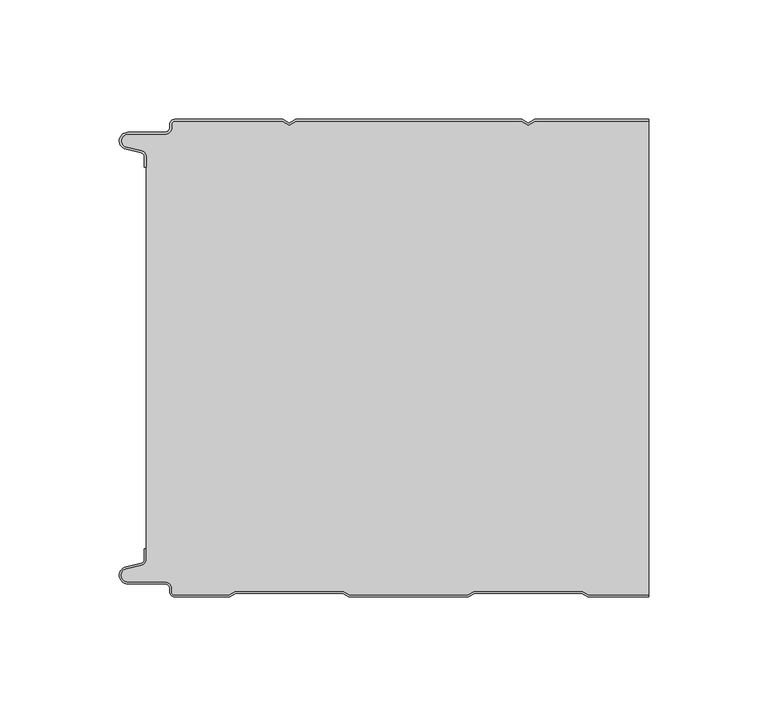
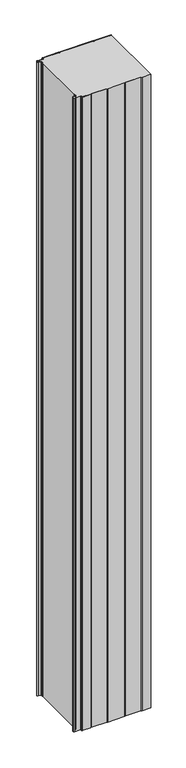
"""IFC4 building model written with IfcOpenShell, lengths in millimetres: plate geometry, PMH_Curtain-PaneL-Standard : ACH_PMH_Stone-wool-Panel_200M."""

import ifcopenshell
import ifcopenshell.guid

model = None  # the IFC model being written
_history = None  # IfcOwnerHistory: only IFC2X3 demands one
_inside = {}  # id of a spatial element -> (the spatial element, [elements in it])
_under = {}  # id of a project, library or spatial element -> (it, [spatial elements below it])
_declared = {}  # id of a project -> (the project, [libraries it declares])
_typed = {}  # id of a type object -> (the type object, [elements of that type])
_made_of = {}  # id of a material, layer set ... -> (it, [elements and type objects made of it])


def new_model(schema):
    """Start an empty IFC model of exactly this schema.

    Asked for "IFC4X3", IfcOpenShell would pick the latest addendum, in which some entities
    have other attributes; the version numbers below select the first issue.
    IFC2X3 requires an IfcOwnerHistory on every rooted entity: one is made here for all.
    """
    global model, _history
    if schema == "IFC4X3":
        model = ifcopenshell.file(schema_version=(4, 3, 0, 0))
    else:
        model = ifcopenshell.file(schema=schema)
    _inside.clear()
    _under.clear()
    _declared.clear()
    _typed.clear()
    _made_of.clear()
    _history = None
    if model.schema == "IFC2X3":
        org = make("IfcOrganization", Name="unknown")
        user = make(
            "IfcPersonAndOrganization",
            ThePerson=make("IfcPerson", FamilyName="unknown"),
            TheOrganization=org,
        )
        app = make(
            "IfcApplication",
            ApplicationDeveloper=org,
            Version="unknown",
            ApplicationFullName="unknown",
            ApplicationIdentifier="unknown",
        )
        _history = make(
            "IfcOwnerHistory",
            OwningUser=user,
            OwningApplication=app,
            ChangeAction="ADDED",
            CreationDate=0,
        )
    return model


def make(cls, **values):
    """One entity of the class cls with the attributes given. An attribute that is None is left unset."""
    return model.create_entity(
        cls, **{name: value for name, value in values.items() if value is not None}
    )


def rooted(cls, **values):
    """An entity with a GlobalId (a new one), such as an element, a storey or a relation."""
    return make(cls, GlobalId=ifcopenshell.guid.new(), OwnerHistory=_history, **values)


def si_unit(unit_type, name, prefix=None):
    """IfcSIUnit, for example si_unit("LENGTHUNIT", "METRE", prefix="MILLI")."""
    return make("IfcSIUnit", UnitType=unit_type, Prefix=prefix, Name=name)


def assignment(units):
    """IfcUnitAssignment: the units of a project."""
    return None if units is None else make("IfcUnitAssignment", Units=units)


def point(xyz):
    """IfcCartesianPoint."""
    return None if xyz is None else make("IfcCartesianPoint", Coordinates=xyz)


def direction(xyz):
    """IfcDirection."""
    return None if xyz is None else make("IfcDirection", DirectionRatios=xyz)


def frame(location, z_axis=None, x_axis=None):
    """IfcAxis2Placement3D, a coordinate frame: its origin and axes. An axis left out is left unset."""
    return make(
        "IfcAxis2Placement3D",
        Location=point(location),
        Axis=direction(z_axis),
        RefDirection=direction(x_axis),
    )


def frame_2d(location, x_axis=None):
    """IfcAxis2Placement2D, a coordinate frame in the plane: its origin and x axis."""
    return make(
        "IfcAxis2Placement2D", Location=point(location), RefDirection=direction(x_axis)
    )


def origin():
    """The frame at (0, 0, 0) with its axes left unset."""
    return frame((0.0, 0.0, 0.0))


def origin_with_axes():
    """The frame at (0, 0, 0) with the z axis (0, 0, 1) and the x axis (1, 0, 0) written out."""
    return frame((0.0, 0.0, 0.0), z_axis=(0.0, 0.0, 1.0), x_axis=(1.0, 0.0, 0.0))


def place(relative_to, where):
    """IfcLocalPlacement: puts the frame where relative to a parent placement (None: the world)."""
    return make(
        "IfcLocalPlacement", PlacementRelTo=relative_to, RelativePlacement=where
    )


def context(
    kind, dimensions, precision=None, world=None, true_north=None, identifier=None
):
    """IfcGeometricRepresentationContext, for example the 3D "Model" context."""
    return make(
        "IfcGeometricRepresentationContext",
        ContextIdentifier=identifier,
        ContextType=kind,
        CoordinateSpaceDimension=dimensions,
        Precision=precision,
        WorldCoordinateSystem=world,
        TrueNorth=true_north,
    )


def project(units=None, contexts=None):
    """IfcProject with its units and contexts."""
    return rooted(
        "IfcProject",
        Name="project",
        RepresentationContexts=contexts,
        UnitsInContext=assignment(units),
    )


def spatial(cls, under=None, at=None, **own):
    """A site, building, storey or space (cls), placed at a placement, below another one or the project."""
    s = rooted(cls, ObjectPlacement=at, **own)
    if under is not None:
        _under.setdefault(under.id(), (under, []))[1].append(s)
    return s


def polyline(points):
    """IfcPolyline through the points."""
    return make("IfcPolyline", Points=[point(p) for p in points])


def circle_curve(where, radius):
    """IfcCircle in the frame where."""
    return make("IfcCircle", Position=where, Radius=radius)


def trimmed(basis, trim1, trim2, sense, master):
    """IfcTrimmedCurve: the piece of a basis curve between two trims."""
    return make(
        "IfcTrimmedCurve",
        BasisCurve=basis,
        Trim1=trim1,
        Trim2=trim2,
        SenseAgreement=sense,
        MasterRepresentation=master,
    )


def segment(curve, same_sense, transition):
    """IfcCompositeCurveSegment."""
    return make(
        "IfcCompositeCurveSegment",
        Transition=transition,
        SameSense=same_sense,
        ParentCurve=curve,
    )


def composite_curve(segments, self_intersect=None):
    """IfcCompositeCurve: segments joined end to end."""
    return make("IfcCompositeCurve", Segments=segments, SelfIntersect=self_intersect)


def outline(outer, holes=None, kind="AREA"):
    """IfcArbitraryClosedProfileDef: a profile drawn as a closed curve; with holes, ...WithVoids."""
    if holes is None:
        return make("IfcArbitraryClosedProfileDef", ProfileType=kind, OuterCurve=outer)
    return make(
        "IfcArbitraryProfileDefWithVoids",
        ProfileType=kind,
        OuterCurve=outer,
        InnerCurves=holes,
    )


def extrude(swept, where, along, depth):
    """IfcExtrudedAreaSolid: the profile swept, set in the frame where, extruded along a direction by depth."""
    return make(
        "IfcExtrudedAreaSolid",
        SweptArea=swept,
        Position=where,
        ExtrudedDirection=direction(along),
        Depth=depth,
    )


def shape(context_of_items, identifier, shape_type, items):
    """IfcShapeRepresentation: the items that make up one representation, for example the "Body"."""
    return make(
        "IfcShapeRepresentation",
        ContextOfItems=context_of_items,
        RepresentationIdentifier=identifier,
        RepresentationType=shape_type,
        Items=items,
    )


def source(mapping_origin, context_of_items, identifier, shape_type, items):
    """IfcRepresentationMap: a shape defined once, which mapped items show again and again."""
    return make(
        "IfcRepresentationMap",
        MappingOrigin=mapping_origin,
        MappedRepresentation=shape(context_of_items, identifier, shape_type, items),
    )


def transform(
    local_origin,
    x_axis=None,
    y_axis=None,
    z_axis=None,
    scale=None,
    scale2=None,
    scale3=None,
    uniform=True,
):
    """IfcCartesianTransformationOperator3D, or its non-uniform kind. x_axis, y_axis, z_axis: its Axis1, 2, 3."""
    if uniform:
        return make(
            "IfcCartesianTransformationOperator3D",
            Axis1=direction(x_axis),
            Axis2=direction(y_axis),
            LocalOrigin=point(local_origin),
            Scale=scale,
            Axis3=direction(z_axis),
        )
    return make(
        "IfcCartesianTransformationOperator3DnonUniform",
        Axis1=direction(x_axis),
        Axis2=direction(y_axis),
        LocalOrigin=point(local_origin),
        Scale=scale,
        Axis3=direction(z_axis),
        Scale2=scale2,
        Scale3=scale3,
    )


def mapped(mapping_source, mapping_target):
    """IfcMappedItem: shows the shape of a source again, moved by a transform."""
    return make(
        "IfcMappedItem", MappingSource=mapping_source, MappingTarget=mapping_target
    )


def made_of(thing, what):
    """Note that an element or type object is made of a material, layer set ...; save() writes the relation."""
    if what is not None:
        _made_of.setdefault(what.id(), (what, []))[1].append(thing)
    return thing


def element(
    cls,
    number,
    at=None,
    inside=None,
    cuts=None,
    type_object=None,
    material=None,
    context=None,
    identifier="Body",
    shape_type=None,
    held_by="IfcProductDefinitionShape",
    body=None,
    shapes=None,
    **own,
):
    """One element of the class cls, such as IfcWall. Its Tag is "e" and its number.

    at: its placement. inside: the storey or other place that contains it. cuts: it is an
    opening in that element (IfcRelVoidsElement). A single representation is given by context,
    identifier, shape_type and body (its items); several are given by shapes. held_by: the class
    of the entity that holds the representations. save() writes the other relations.
    """
    e = rooted(cls, Tag="e%d" % number, ObjectPlacement=at, **own)
    if body is not None:
        shapes = [shape(context, identifier, shape_type, body)]
    if shapes is not None:
        e.Representation = make(held_by, Representations=shapes)
    if inside is not None:
        _inside.setdefault(inside.id(), (inside, []))[1].append(e)
    if cuts is not None:
        rooted(
            "IfcRelVoidsElement", RelatingBuildingElement=cuts, RelatedOpeningElement=e
        )
    if type_object is not None:
        _typed.setdefault(type_object.id(), (type_object, []))[1].append(e)
    return made_of(e, material)


def aggregate(whole, parts):
    """IfcRelAggregates: a whole, such as a stair, and the parts it consists of."""
    return rooted("IfcRelAggregates", RelatingObject=whole, RelatedObjects=parts)


def save(model, path):
    """Write the relations noted so far, then the file.

    IfcRelAggregates (storeys below a building ...), IfcRelContainedInSpatialStructure (elements
    in a storey), IfcRelDefinesByType, IfcRelAssociatesMaterial and IfcRelDeclares: one each for
    every whole, place, type object, material and project.
    """
    for whole, parts in _under.values():
        aggregate(whole, parts)
    for where, things in _inside.values():
        rooted(
            "IfcRelContainedInSpatialStructure",
            RelatedElements=things,
            RelatingStructure=where,
        )
    for kind, things in _typed.values():
        rooted("IfcRelDefinesByType", RelatedObjects=things, RelatingType=kind)
    for what, things in _made_of.values():
        rooted("IfcRelAssociatesMaterial", RelatedObjects=things, RelatingMaterial=what)
    for by, libraries in _declared.values():
        rooted("IfcRelDeclares", RelatingContext=by, RelatedDefinitions=libraries)
    model.write(path)


def plate_208f2f02(model_context):
    return source(origin(), model_context, "Body", "SweptSolid", [
        extrude(outline(composite_curve([segment(trimmed(circle_curve(frame_2d((-102.0119739, -15.878557)), 2.0), [point((-100.0119739, -15.878557))], [point((-101.5620718, -13.9298169))], True, "CARTESIAN"), True, "CONTINUOUS"), segment(polyline([(-101.5620718, -13.9298169), (-107.7217978, -12.507732)]), True, "CONTINUOUS"), segment(trimmed(circle_curve(frame_2d((-106.9119739, -9.0)), 3.6), [point((-107.7217978, -12.507732))], [point((-106.9119739, -5.4))], False, "CARTESIAN"), True, "CONTINUOUS"), segment(polyline([(-106.9119739, -5.4), (-91.4119739, -5.4)]), True, "CONTINUOUS"), segment(trimmed(circle_curve(frame_2d((-91.4119739, -3.4)), 2.0), [point((-91.4119739, -5.4))], [point((-89.4119739, -3.4))], True, "CARTESIAN"), True, "CONTINUOUS"), segment(polyline([(-89.4119739, -3.4), (-89.4119739, -2.0)]), True, "CONTINUOUS"), segment(trimmed(circle_curve(frame_2d((-87.4119739, -2.0)), 2.0), [point((-89.4119739, -2.0))], [point((-87.4119739, 0.0))], False, "CARTESIAN"), True, "CONTINUOUS"), segment(polyline([(-87.4119739, 0.0), (-42.1119734, 0.0), (-39.4119739, -1.5588455), (-36.7119745, 0.0), (57.8880266, 0.0), (60.5880261, -1.5588455), (63.2880255, 0.0), (111.0119739, 0.0), (111.0119739, -0.8), (63.5023849, -0.8), (60.5880261, -2.482606), (57.6736672, -0.8), (-36.4976151, -0.8), (-39.4119739, -2.482606), (-42.3263328, -0.8), (-87.4119739, -0.8)]), True, "CONTINUOUS"), segment(trimmed(circle_curve(frame_2d((-87.4119739, -2.0)), 1.2), [point((-87.4119739, -0.8))], [point((-88.6119739, -2.0))], True, "CARTESIAN"), True, "CONTINUOUS"), segment(polyline([(-88.6119739, -2.0), (-88.6119739, -3.4)]), True, "CONTINUOUS"), segment(trimmed(circle_curve(frame_2d((-91.4119739, -3.4)), 2.8), [point((-88.6119739, -3.4))], [point((-91.4119739, -6.2))], False, "CARTESIAN"), True, "CONTINUOUS"), segment(polyline([(-91.4119739, -6.2), (-106.9119739, -6.2)]), True, "CONTINUOUS"), segment(trimmed(circle_curve(frame_2d((-106.9119739, -9.0)), 2.8), [point((-106.9119739, -6.2))], [point((-107.541837, -11.7282362))], True, "CARTESIAN"), True, "CONTINUOUS"), segment(polyline([(-107.541837, -11.7282362), (-101.3821109, -13.150321)]), True, "CONTINUOUS"), segment(trimmed(circle_curve(frame_2d((-102.0119739, -15.878557)), 2.8), [point((-101.3821109, -13.150321))], [point((-99.2119739, -15.878557))], False, "CARTESIAN"), True, "CONTINUOUS"), segment(polyline([(-99.2119739, -15.878557), (-99.2119739, -20.0), (-100.0119739, -20.0), (-100.0119739, -15.878557)]), True, "CONTINUOUS")], self_intersect=False)), origin_with_axes(), (0.0, 0.0, 1.0), 1945.7507136),
        extrude(outline(composite_curve([segment(polyline([(-99.2119739, -184.121443), (-99.2119739, -15.8785573)]), True, "CONTINUOUS"), segment(trimmed(circle_curve(frame_2d((-102.0119739, -15.8785573)), 2.8), [point((-99.2119739, -15.8785573))], [point((-101.3821109, -13.1503212))], True, "CARTESIAN"), True, "CONTINUOUS"), segment(polyline([(-101.3821109, -13.1503212), (-107.541837, -11.7282362)]), True, "CONTINUOUS"), segment(trimmed(circle_curve(frame_2d((-106.911974, -9.0)), 2.8), [point((-107.541837, -11.7282362))], [point((-106.911974, -6.2))], False, "CARTESIAN"), True, "CONTINUOUS"), segment(polyline([(-106.911974, -6.2), (-91.411974, -6.2)]), True, "CONTINUOUS"), segment(trimmed(circle_curve(frame_2d((-91.411974, -3.4)), 2.8), [point((-91.411974, -6.2))], [point((-88.611974, -3.4))], True, "CARTESIAN"), True, "CONTINUOUS"), segment(polyline([(-88.611974, -3.4), (-88.611974, -2.0)]), True, "CONTINUOUS"), segment(trimmed(circle_curve(frame_2d((-87.411974, -2.0)), 1.2), [point((-88.611974, -2.0))], [point((-87.411974, -0.8))], False, "CARTESIAN"), True, "CONTINUOUS"), segment(polyline([(-87.411974, -0.8), (-42.3263329, -0.8), (-39.411974, -2.482606), (-36.4976152, -0.8), (57.6736671, -0.8), (60.588026, -2.482606), (63.5023848, -0.8), (111.0119739, -0.8), (111.0119739, -199.2), (85.7985382, -199.2), (83.2004606, -197.7), (37.9717445, -197.7), (35.3736669, -199.2), (-14.2014618, -199.2), (-16.7995394, -197.7), (-62.0282555, -197.7), (-64.6263331, -199.2), (-87.4119739, -199.2)]), True, "CONTINUOUS"), segment(trimmed(circle_curve(frame_2d((-87.4119739, -198.0)), 1.2), [point((-87.4119739, -199.2))], [point((-88.6119739, -198.0))], False, "CARTESIAN"), True, "CONTINUOUS"), segment(polyline([(-88.6119739, -198.0), (-88.6119739, -196.5999998)]), True, "CONTINUOUS"), segment(trimmed(circle_curve(frame_2d((-91.4119739, -196.5999998)), 2.8), [point((-88.6119739, -196.5999998))], [point((-91.4119739, -193.7999998))], True, "CARTESIAN"), True, "CONTINUOUS"), segment(polyline([(-91.4119739, -193.7999998), (-106.9119739, -193.7999998)]), True, "CONTINUOUS"), segment(trimmed(circle_curve(frame_2d((-106.9119739, -191.0)), 2.7999998), [point((-106.9119739, -193.7999998))], [point((-107.5418369, -188.271764))], False, "CARTESIAN"), True, "CONTINUOUS"), segment(polyline([(-107.5418369, -188.271764), (-101.3821109, -186.8496792)]), True, "CONTINUOUS"), segment(trimmed(circle_curve(frame_2d((-102.0119739, -184.121443)), 2.8), [point((-101.3821109, -186.8496792))], [point((-99.2119739, -184.121443))], True, "CARTESIAN"), True, "CONTINUOUS")], self_intersect=False)), origin_with_axes(), (0.0, 0.0, 1.0), 1945.7507136),
        extrude(outline(composite_curve([segment(trimmed(circle_curve(frame_2d((-87.4119739, -198.0)), 2.0), [point((-87.4119739, -200.0))], [point((-89.4119739, -198.0))], False, "CARTESIAN"), True, "CONTINUOUS"), segment(polyline([(-89.4119739, -198.0), (-89.4119739, -196.6)]), True, "CONTINUOUS"), segment(trimmed(circle_curve(frame_2d((-91.4119739, -196.6)), 2.0), [point((-89.4119739, -196.6))], [point((-91.4119739, -194.6))], True, "CARTESIAN"), True, "CONTINUOUS"), segment(polyline([(-91.4119739, -194.6), (-106.9119739, -194.6)]), True, "CONTINUOUS"), segment(trimmed(circle_curve(frame_2d((-106.9119739, -191.0)), 3.6), [point((-106.9119739, -194.6))], [point((-107.7217979, -187.4922678))], False, "CARTESIAN"), True, "CONTINUOUS"), segment(polyline([(-107.7217979, -187.4922678), (-101.5620718, -186.070183)]), True, "CONTINUOUS"), segment(trimmed(circle_curve(frame_2d((-102.0119739, -184.121443)), 2.0), [point((-101.5620718, -186.070183))], [point((-100.0119739, -184.121443))], True, "CARTESIAN"), True, "CONTINUOUS"), segment(polyline([(-100.0119739, -184.121443), (-100.0119739, -180.0), (-99.2119739, -180.0), (-99.2119739, -184.121443)]), True, "CONTINUOUS"), segment(trimmed(circle_curve(frame_2d((-102.0119739, -184.121443)), 2.8), [point((-99.2119739, -184.121443))], [point((-101.3821109, -186.8496792))], False, "CARTESIAN"), True, "CONTINUOUS"), segment(polyline([(-101.3821109, -186.8496792), (-107.5418369, -188.271764)]), True, "CONTINUOUS"), segment(trimmed(circle_curve(frame_2d((-106.9119739, -191.0)), 2.8), [point((-107.5418369, -188.271764))], [point((-106.9119739, -193.8))], True, "CARTESIAN"), True, "CONTINUOUS"), segment(polyline([(-106.9119739, -193.8), (-91.4119739, -193.8)]), True, "CONTINUOUS"), segment(trimmed(circle_curve(frame_2d((-91.4119739, -196.6)), 2.8), [point((-91.4119739, -193.8))], [point((-88.6119739, -196.6))], False, "CARTESIAN"), True, "CONTINUOUS"), segment(polyline([(-88.6119739, -196.6), (-88.6119739, -198.0)]), True, "CONTINUOUS"), segment(trimmed(circle_curve(frame_2d((-87.4119739, -198.0)), 1.2), [point((-88.6119739, -198.0))], [point((-87.4119739, -199.2))], True, "CARTESIAN"), True, "CONTINUOUS"), segment(polyline([(-87.4119739, -199.2), (-64.6263331, -199.2), (-62.0282555, -197.7), (-16.7995394, -197.7), (-14.2014618, -199.2), (35.3736669, -199.2), (37.9717445, -197.7), (83.2004606, -197.7), (85.7985382, -199.2), (111.0119739, -199.2), (111.0119739, -200.0), (85.584179, -200.0), (82.9861014, -198.5), (38.1861037, -198.5), (35.5880261, -200.0), (-14.415821, -200.0), (-17.0138986, -198.5), (-61.8138963, -198.5), (-64.4119739, -200.0), (-87.4119739, -200.0)]), True, "CONTINUOUS")], self_intersect=False)), origin_with_axes(), (0.0, 0.0, 1.0), 1945.7507136),
    ])


if __name__ == "__main__":
    model = new_model("IFC4")
    model_context = context("Model", 3, world=origin())
    ifc_project = project(units=[si_unit("LENGTHUNIT", "METRE", prefix="MILLI")], contexts=[model_context])
    site = spatial("IfcSite", under=ifc_project)
    building = spatial("IfcBuilding", under=site)
    placement = place(None, origin())
    plate_shape = plate_208f2f02(model_context)
    element("IfcPlate", 1, ObjectType="PMH_Curtain-PaneL-Standard : ACH_PMH_Stone-wool-Panel_200M", at=placement, inside=building, context=model_context, shape_type="MappedRepresentation", body=[
        mapped(plate_shape, transform((0.0, 0.0, 0.0), x_axis=(1.0, 0.0, 0.0), y_axis=(0.0, 1.0, 0.0), z_axis=(0.0, 0.0, 1.0))),
    ])
    save(model, "model.ifc")
